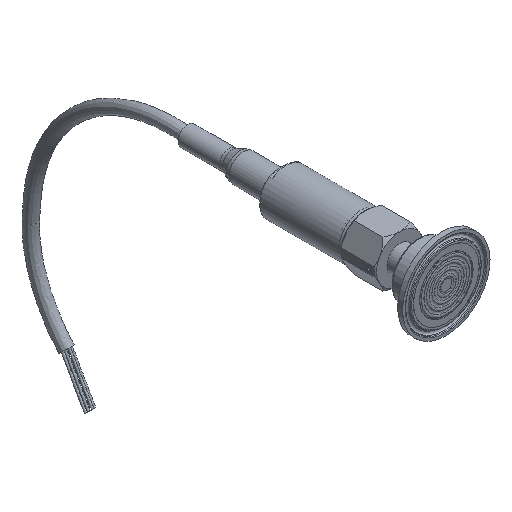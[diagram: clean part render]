
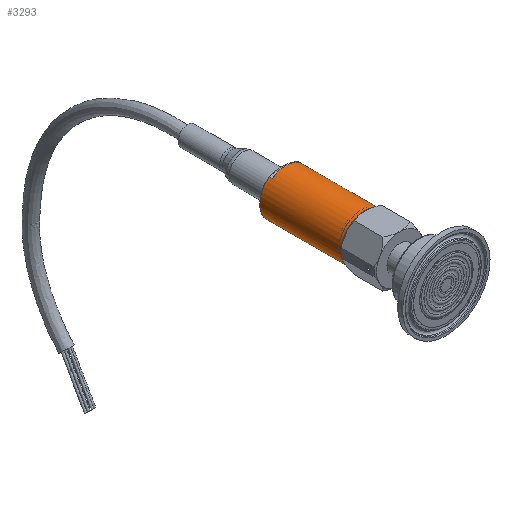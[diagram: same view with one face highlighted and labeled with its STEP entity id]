
A CAD part, isometric view. The second image highlights one B-rep face of the part: STEP entity #3293.
In plain terms, the highlighted cylindrical face has radius 13.43 mm (diameter 26.861 mm), a full revolution.
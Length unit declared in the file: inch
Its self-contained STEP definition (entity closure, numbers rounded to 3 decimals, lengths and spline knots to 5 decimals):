
#282=LINE('',#7899,#396);
#283=LINE('',#7903,#397);
#284=LINE('',#7907,#398);
#285=LINE('',#7911,#399);
#286=LINE('',#7915,#400);
#396=VECTOR('',#4734,0.52875);
#397=VECTOR('',#4737,0.3937);
#398=VECTOR('',#4740,0.3937);
#399=VECTOR('',#4743,0.3937);
#400=VECTOR('',#4746,0.3937);
#475=CYLINDRICAL_SURFACE('',#3768,0.52875);
#696=FACE_OUTER_BOUND('',#943,.T.);
#943=EDGE_LOOP('',(#2805,#2806,#2807,#2808,#2809,#2810,#2811,#2812,#2813,
#2814,#2815,#2816));
#1236=CIRCLE('',#3767,0.52875);
#1237=CIRCLE('',#3769,0.52875);
#1238=CIRCLE('',#3770,0.52875);
#1239=CIRCLE('',#3771,0.52875);
#1240=CIRCLE('',#3772,0.52875);
#1241=CIRCLE('',#3773,0.52875);
#1518=VERTEX_POINT('',#7895);
#1519=VERTEX_POINT('',#7898);
#1520=VERTEX_POINT('',#7900);
#1521=VERTEX_POINT('',#7902);
#1522=VERTEX_POINT('',#7904);
#1523=VERTEX_POINT('',#7906);
#1524=VERTEX_POINT('',#7908);
#1525=VERTEX_POINT('',#7910);
#1526=VERTEX_POINT('',#7912);
#1527=VERTEX_POINT('',#7914);
#1957=EDGE_CURVE('',#1518,#1518,#1236,.T.);
#1958=EDGE_CURVE('',#1518,#1519,#282,.T.);
#1959=EDGE_CURVE('',#1519,#1520,#1237,.T.);
#1960=EDGE_CURVE('',#1520,#1521,#283,.T.);
#1961=EDGE_CURVE('',#1521,#1522,#1238,.T.);
#1962=EDGE_CURVE('',#1522,#1523,#284,.T.);
#1963=EDGE_CURVE('',#1523,#1524,#1239,.T.);
#1964=EDGE_CURVE('',#1524,#1525,#285,.T.);
#1965=EDGE_CURVE('',#1525,#1526,#1240,.T.);
#1966=EDGE_CURVE('',#1526,#1527,#286,.T.);
#1967=EDGE_CURVE('',#1527,#1519,#1241,.T.);
#2805=ORIENTED_EDGE('',*,*,#1957,.F.);
#2806=ORIENTED_EDGE('',*,*,#1958,.T.);
#2807=ORIENTED_EDGE('',*,*,#1959,.T.);
#2808=ORIENTED_EDGE('',*,*,#1960,.T.);
#2809=ORIENTED_EDGE('',*,*,#1961,.T.);
#2810=ORIENTED_EDGE('',*,*,#1962,.T.);
#2811=ORIENTED_EDGE('',*,*,#1963,.T.);
#2812=ORIENTED_EDGE('',*,*,#1964,.T.);
#2813=ORIENTED_EDGE('',*,*,#1965,.T.);
#2814=ORIENTED_EDGE('',*,*,#1966,.T.);
#2815=ORIENTED_EDGE('',*,*,#1967,.T.);
#2816=ORIENTED_EDGE('',*,*,#1958,.F.);
#3293=ADVANCED_FACE('',(#696),#475,.T.);
#3767=AXIS2_PLACEMENT_3D('',#7896,#4730,#4731);
#3768=AXIS2_PLACEMENT_3D('',#7897,#4732,#4733);
#3769=AXIS2_PLACEMENT_3D('',#7901,#4735,#4736);
#3770=AXIS2_PLACEMENT_3D('',#7905,#4738,#4739);
#3771=AXIS2_PLACEMENT_3D('',#7909,#4741,#4742);
#3772=AXIS2_PLACEMENT_3D('',#7913,#4744,#4745);
#3773=AXIS2_PLACEMENT_3D('',#7916,#4747,#4748);
#4730=DIRECTION('center_axis',(0.,-1.,0.));
#4731=DIRECTION('ref_axis',(0.,0.,-1.));
#4732=DIRECTION('center_axis',(0.,-1.,0.));
#4733=DIRECTION('ref_axis',(0.,0.,-1.));
#4734=DIRECTION('',(0.,1.,0.));
#4735=DIRECTION('center_axis',(0.,-1.,0.));
#4736=DIRECTION('ref_axis',(0.,0.,-1.));
#4737=DIRECTION('',(0.,1.,0.));
#4738=DIRECTION('center_axis',(0.,-1.,0.));
#4739=DIRECTION('ref_axis',(0.,0.,-1.));
#4740=DIRECTION('',(0.,-1.,0.));
#4741=DIRECTION('center_axis',(0.,-1.,0.));
#4742=DIRECTION('ref_axis',(0.,0.,-1.));
#4743=DIRECTION('',(0.,1.,0.));
#4744=DIRECTION('center_axis',(0.,-1.,0.));
#4745=DIRECTION('ref_axis',(0.,0.,-1.));
#4746=DIRECTION('',(0.,-1.,0.));
#4747=DIRECTION('center_axis',(0.,-1.,0.));
#4748=DIRECTION('ref_axis',(0.,0.,-1.));
#7895=CARTESIAN_POINT('',(2.21807,-2.96434,0.17722));
#7896=CARTESIAN_POINT('Origin',(2.21807,-2.96434,-0.35153));
#7897=CARTESIAN_POINT('Origin',(2.21807,-1.11434,-0.35153));
#7898=CARTESIAN_POINT('',(2.21807,-1.17734,0.17722));
#7899=CARTESIAN_POINT('',(2.21807,-1.11434,0.17722));
#7900=CARTESIAN_POINT('',(1.91426,-1.17734,0.08122));
#7901=CARTESIAN_POINT('Origin',(2.21807,-1.17734,-0.35153));
#7902=CARTESIAN_POINT('',(1.91426,-1.11434,0.08122));
#7903=CARTESIAN_POINT('',(1.91426,-1.11434,0.08122));
#7904=CARTESIAN_POINT('',(1.91426,-1.11434,-0.78428));
#7905=CARTESIAN_POINT('Origin',(2.21807,-1.11434,-0.35153));
#7906=CARTESIAN_POINT('',(1.91426,-1.17734,-0.78428));
#7907=CARTESIAN_POINT('',(1.91426,-1.11434,-0.78428));
#7908=CARTESIAN_POINT('',(2.52189,-1.17734,-0.78428));
#7909=CARTESIAN_POINT('Origin',(2.21807,-1.17734,-0.35153));
#7910=CARTESIAN_POINT('',(2.52189,-1.11434,-0.78428));
#7911=CARTESIAN_POINT('',(2.52189,-1.11434,-0.78428));
#7912=CARTESIAN_POINT('',(2.52189,-1.11434,0.08122));
#7913=CARTESIAN_POINT('Origin',(2.21807,-1.11434,-0.35153));
#7914=CARTESIAN_POINT('',(2.52189,-1.17734,0.08122));
#7915=CARTESIAN_POINT('',(2.52189,-1.11434,0.08122));
#7916=CARTESIAN_POINT('Origin',(2.21807,-1.17734,-0.35153));
